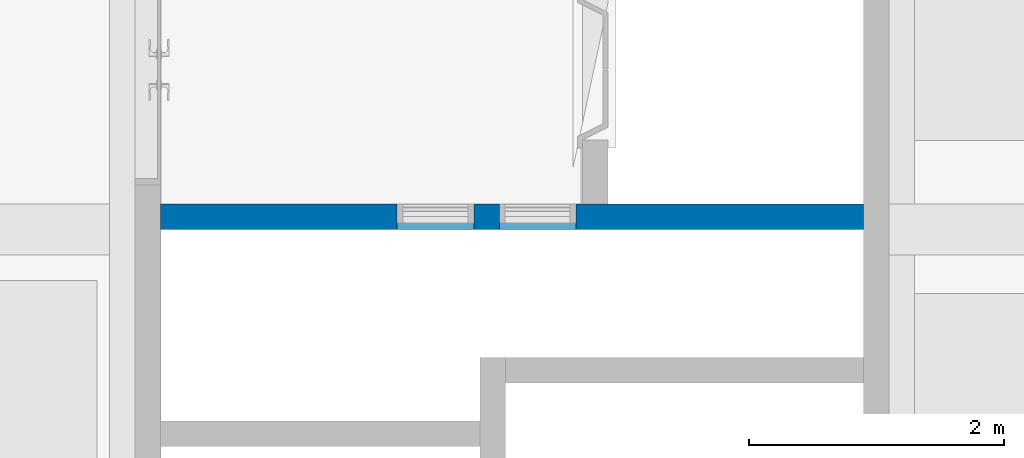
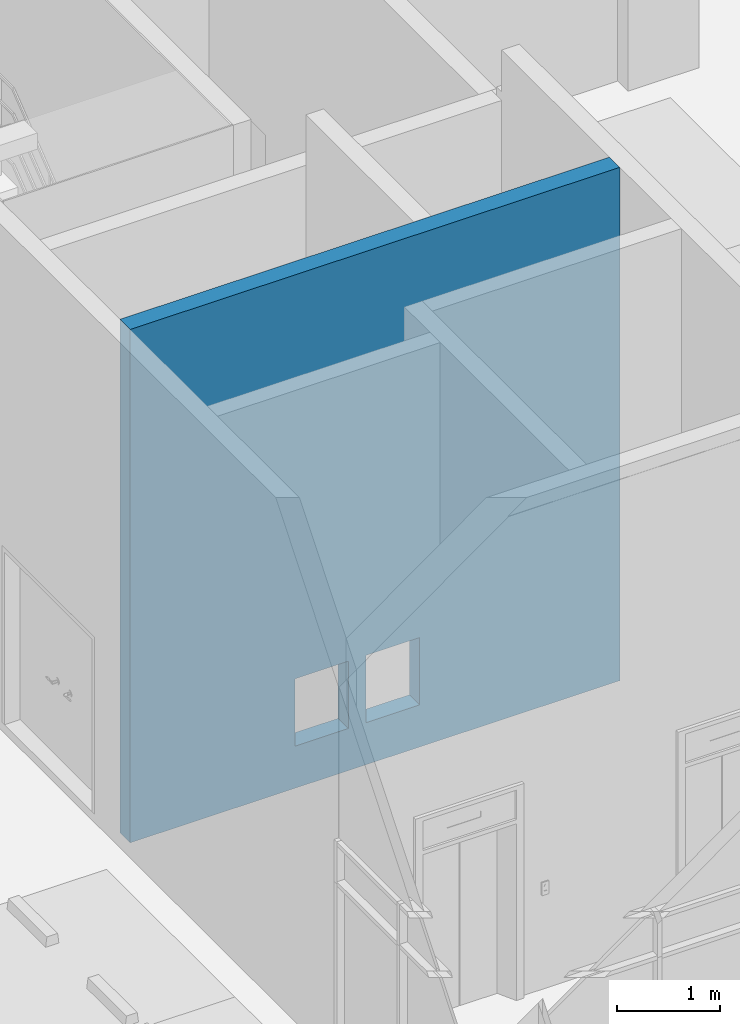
# One storey, part 11 of 29: 1 wall, 2 openings.
"""IFC2X3 building model written with IfcOpenShell, lengths in millimetres."""

from ifc_helpers import new_model, entity, si_unit, converted_unit, derived_unit, direction, frame, frame_2d, origin, place, context, subcontext, project, spatial, rectangle, extrude, material, layer, layer_set, layer_usage, type_object, element, save


model = new_model("IFC2X3")

# Units and contexts
model_context = context("Model", 3, precision=0.01, world=origin(), true_north=direction((6.123031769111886e-17, 1.0)))
body_context = subcontext(model_context, "Body", "Model", "MODEL_VIEW")
ifc_project = project(units=[si_unit("LENGTHUNIT", "METRE", prefix="MILLI"), si_unit("AREAUNIT", "SQUARE_METRE"), si_unit("VOLUMEUNIT", "CUBIC_METRE"), converted_unit("PLANEANGLEUNIT", "DEGREE", entity("IfcRatioMeasure", 0.017453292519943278), si_unit("PLANEANGLEUNIT", "RADIAN"), dimensions=[0, 0, 0, 0, 0, 0, 0]), si_unit("MASSUNIT", "GRAM", prefix="KILO"), derived_unit("MASSDENSITYUNIT", [(si_unit("MASSUNIT", "GRAM", prefix="KILO"), 1), (si_unit("LENGTHUNIT", "METRE"), -3)]), derived_unit("MOMENTOFINERTIAUNIT", [(si_unit("LENGTHUNIT", "METRE"), 4)]), si_unit("TIMEUNIT", "SECOND"), si_unit("FREQUENCYUNIT", "HERTZ"), si_unit("THERMODYNAMICTEMPERATUREUNIT", "DEGREE_CELSIUS"), derived_unit("THERMALTRANSMITTANCEUNIT", [(si_unit("MASSUNIT", "GRAM", prefix="KILO"), 1), (si_unit("THERMODYNAMICTEMPERATUREUNIT", "KELVIN"), -1), (si_unit("TIMEUNIT", "SECOND"), -3)]), derived_unit("VOLUMETRICFLOWRATEUNIT", [(si_unit("LENGTHUNIT", "METRE"), 3), (si_unit("TIMEUNIT", "SECOND"), -1)]), derived_unit("MASSFLOWRATEUNIT", [(si_unit("MASSUNIT", "GRAM", prefix="KILO"), 1), (si_unit("TIMEUNIT", "SECOND"), -1)]), derived_unit("ROTATIONALFREQUENCYUNIT", [(si_unit("TIMEUNIT", "SECOND"), -1)]), si_unit("ELECTRICCURRENTUNIT", "AMPERE"), si_unit("ELECTRICVOLTAGEUNIT", "VOLT"), si_unit("POWERUNIT", "WATT"), si_unit("FORCEUNIT", "NEWTON", prefix="KILO"), si_unit("ILLUMINANCEUNIT", "LUX"), si_unit("LUMINOUSFLUXUNIT", "LUMEN"), si_unit("LUMINOUSINTENSITYUNIT", "CANDELA"), derived_unit("USERDEFINED", [(si_unit("MASSUNIT", "GRAM", prefix="KILO"), -1), (si_unit("LENGTHUNIT", "METRE"), -2), (si_unit("TIMEUNIT", "SECOND"), 3), (si_unit("LUMINOUSFLUXUNIT", "LUMEN"), 1)]), derived_unit("SOUNDPOWERUNIT", [(si_unit("MASSUNIT", "GRAM", prefix="KILO"), 1), (si_unit("LENGTHUNIT", "METRE"), 2), (si_unit("TIMEUNIT", "SECOND"), -3)]), derived_unit("SOUNDPRESSUREUNIT", [(si_unit("MASSUNIT", "GRAM", prefix="KILO"), 1), (si_unit("LENGTHUNIT", "METRE"), -1), (si_unit("TIMEUNIT", "SECOND"), -2)]), derived_unit("LINEARVELOCITYUNIT", [(si_unit("LENGTHUNIT", "METRE"), 1), (si_unit("TIMEUNIT", "SECOND"), -1)]), si_unit("PRESSUREUNIT", "PASCAL"), derived_unit("USERDEFINED", [(si_unit("LENGTHUNIT", "METRE"), -2), (si_unit("MASSUNIT", "GRAM", prefix="KILO"), 1), (si_unit("TIMEUNIT", "SECOND"), -2)]), derived_unit("LINEARFORCEUNIT", [(si_unit("MASSUNIT", "GRAM", prefix="KILO"), 1), (si_unit("LENGTHUNIT", "METRE"), 1), (si_unit("TIMEUNIT", "SECOND"), -2), (si_unit("LENGTHUNIT", "METRE"), -1)]), derived_unit("PLANARFORCEUNIT", [(si_unit("MASSUNIT", "GRAM", prefix="KILO"), 1), (si_unit("LENGTHUNIT", "METRE"), 1), (si_unit("TIMEUNIT", "SECOND"), -2), (si_unit("LENGTHUNIT", "METRE"), -2)])], contexts=[model_context])

# Site, building, storey
site_placement = place(None, frame((-14167.972527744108, -657.2125860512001, 0.0)))
site = spatial("IfcSite", under=ifc_project, at=site_placement, Name="Default", CompositionType="ELEMENT")
building_placement = place(site_placement, origin())
building = spatial("IfcBuilding", under=site, at=building_placement, Name="Sample Building", CompositionType="ELEMENT")
storey_placement = place(building_placement, frame((0.0, 0.0, -6100.0)))
storey = spatial("IfcBuildingStorey", under=building, at=storey_placement, Name="지하1층", CompositionType="ELEMENT", Elevation=-6099.999999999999)

# Wall, openings
ifc_material = material(Name="KBIMS-콘크리트")
ifc_layer = layer(ifc_material, 200.0)
ifc_layer_set = layer_set([ifc_layer], Name="기본 벽:WA111-철근콘크리트구조 벽 200mm_CW2")
ifc_layer_usage = layer_usage(ifc_layer_set, "AXIS2", "NEGATIVE", 100.0)
wall_type = type_object("IfcWallType", Name="기본 벽:WA111-철근콘크리트구조 벽 200mm_CW2", PredefinedType="STANDARD", material=ifc_layer_set)
wall_placement = place(storey_placement, frame((30266.125814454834, 20057.212307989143, 0.0)))
wall = element("IfcWallStandardCase", 1, at=wall_placement, inside=storey, type_object=wall_type, material=ifc_layer_usage, Name="기본 벽:WA111-철근콘크리트구조 벽 200mm_CW2", ObjectType="기본 벽:WA111-철근콘크리트구조 벽 200mm_CW2", context=body_context, shape_type="SweptSolid", body=[
    extrude(rectangle(XDim=5501.846676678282, YDim=199.99999999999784, at=frame_2d((2750.923338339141, -1.2079226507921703e-13), x_axis=(-1.0, 0.0))), origin(), (0.0, 0.0, 1.0), 6100.0),
])
opening_1_placement = place(wall_placement, frame((1851.846496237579, -100.0, 500.0)))
element("IfcOpeningElement", 2, at=opening_1_placement, cuts=wall, Name="WD733-그릴창(알루미늄):WD733-그릴창(알루미늄)_600x800mm:1", ObjectType="Opening", context=body_context, shape_type="SweptSolid", body=[
    extrude(rectangle(XDim=800.0000000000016, YDim=600.0000000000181, at=frame_2d((400.000000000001, 300.0000000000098), x_axis=(-1.0, 0.0))), frame((0.0, 0.0, 0.0), z_axis=(0.0, 1.0, 0.0), x_axis=(0.0, 0.0, 1.0)), (0.0, 0.0, 1.0), 200.0),
])
opening_2_placement = place(wall_placement, frame((2651.846766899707, -100.0, 500.0)))
element("IfcOpeningElement", 3, at=opening_2_placement, cuts=wall, Name="WD733-그릴창(알루미늄):WD733-그릴창(알루미늄)_600x800mm:1", ObjectType="Opening", context=body_context, shape_type="SweptSolid", body=[
    extrude(rectangle(XDim=800.0000000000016, YDim=600.0000000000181, at=frame_2d((400.000000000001, 300.0000000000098), x_axis=(-1.0, 0.0))), frame((0.0, 0.0, 0.0), z_axis=(0.0, 1.0, 0.0), x_axis=(0.0, 0.0, 1.0)), (0.0, 0.0, 1.0), 200.0),
])

save(model, "model.ifc")
